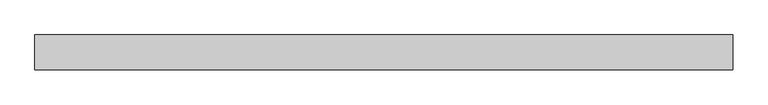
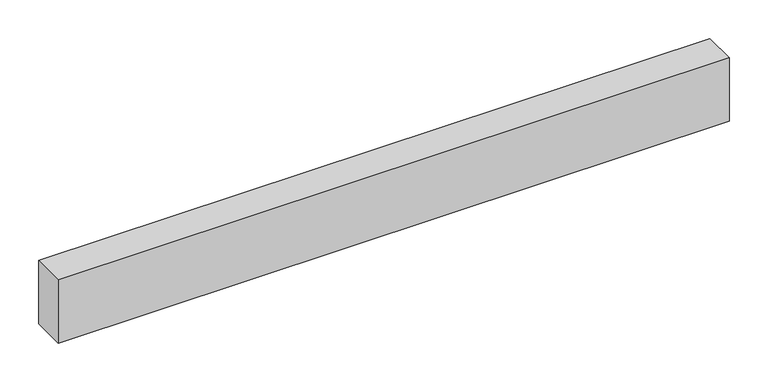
"""IFC4 building model written with IfcOpenShell, lengths in millimetres: proxy geometry, Building-Materials_Other_Daliform_Simple-Family_Accessory_PANEL_for ATLANTIS : PANEL_ATLANTIS_diam110_5x100x10."""

import ifcopenshell
import ifcopenshell.guid

model = None  # the IFC model being written
_history = None  # IfcOwnerHistory: only IFC2X3 demands one
_inside = {}  # id of a spatial element -> (the spatial element, [elements in it])
_under = {}  # id of a project, library or spatial element -> (it, [spatial elements below it])
_declared = {}  # id of a project -> (the project, [libraries it declares])
_typed = {}  # id of a type object -> (the type object, [elements of that type])
_made_of = {}  # id of a material, layer set ... -> (it, [elements and type objects made of it])


def new_model(schema):
    """Start an empty IFC model of exactly this schema.

    Asked for "IFC4X3", IfcOpenShell would pick the latest addendum, in which some entities
    have other attributes; the version numbers below select the first issue.
    IFC2X3 requires an IfcOwnerHistory on every rooted entity: one is made here for all.
    """
    global model, _history
    if schema == "IFC4X3":
        model = ifcopenshell.file(schema_version=(4, 3, 0, 0))
    else:
        model = ifcopenshell.file(schema=schema)
    _inside.clear()
    _under.clear()
    _declared.clear()
    _typed.clear()
    _made_of.clear()
    _history = None
    if model.schema == "IFC2X3":
        org = make("IfcOrganization", Name="unknown")
        user = make(
            "IfcPersonAndOrganization",
            ThePerson=make("IfcPerson", FamilyName="unknown"),
            TheOrganization=org,
        )
        app = make(
            "IfcApplication",
            ApplicationDeveloper=org,
            Version="unknown",
            ApplicationFullName="unknown",
            ApplicationIdentifier="unknown",
        )
        _history = make(
            "IfcOwnerHistory",
            OwningUser=user,
            OwningApplication=app,
            ChangeAction="ADDED",
            CreationDate=0,
        )
    return model


def make(cls, **values):
    """One entity of the class cls with the attributes given. An attribute that is None is left unset."""
    return model.create_entity(
        cls, **{name: value for name, value in values.items() if value is not None}
    )


def rooted(cls, **values):
    """An entity with a GlobalId (a new one), such as an element, a storey or a relation."""
    return make(cls, GlobalId=ifcopenshell.guid.new(), OwnerHistory=_history, **values)


def si_unit(unit_type, name, prefix=None):
    """IfcSIUnit, for example si_unit("LENGTHUNIT", "METRE", prefix="MILLI")."""
    return make("IfcSIUnit", UnitType=unit_type, Prefix=prefix, Name=name)


def assignment(units):
    """IfcUnitAssignment: the units of a project."""
    return None if units is None else make("IfcUnitAssignment", Units=units)


def point(xyz):
    """IfcCartesianPoint."""
    return None if xyz is None else make("IfcCartesianPoint", Coordinates=xyz)


def direction(xyz):
    """IfcDirection."""
    return None if xyz is None else make("IfcDirection", DirectionRatios=xyz)


def frame(location, z_axis=None, x_axis=None):
    """IfcAxis2Placement3D, a coordinate frame: its origin and axes. An axis left out is left unset."""
    return make(
        "IfcAxis2Placement3D",
        Location=point(location),
        Axis=direction(z_axis),
        RefDirection=direction(x_axis),
    )


def origin():
    """The frame at (0, 0, 0) with its axes left unset."""
    return frame((0.0, 0.0, 0.0))


def origin_with_axes():
    """The frame at (0, 0, 0) with the z axis (0, 0, 1) and the x axis (1, 0, 0) written out."""
    return frame((0.0, 0.0, 0.0), z_axis=(0.0, 0.0, 1.0), x_axis=(1.0, 0.0, 0.0))


def place(relative_to, where):
    """IfcLocalPlacement: puts the frame where relative to a parent placement (None: the world)."""
    return make(
        "IfcLocalPlacement", PlacementRelTo=relative_to, RelativePlacement=where
    )


def context(
    kind, dimensions, precision=None, world=None, true_north=None, identifier=None
):
    """IfcGeometricRepresentationContext, for example the 3D "Model" context."""
    return make(
        "IfcGeometricRepresentationContext",
        ContextIdentifier=identifier,
        ContextType=kind,
        CoordinateSpaceDimension=dimensions,
        Precision=precision,
        WorldCoordinateSystem=world,
        TrueNorth=true_north,
    )


def project(units=None, contexts=None):
    """IfcProject with its units and contexts."""
    return rooted(
        "IfcProject",
        Name="project",
        RepresentationContexts=contexts,
        UnitsInContext=assignment(units),
    )


def spatial(cls, under=None, at=None, **own):
    """A site, building, storey or space (cls), placed at a placement, below another one or the project."""
    s = rooted(cls, ObjectPlacement=at, **own)
    if under is not None:
        _under.setdefault(under.id(), (under, []))[1].append(s)
    return s


def polyline(points):
    """IfcPolyline through the points."""
    return make("IfcPolyline", Points=[point(p) for p in points])


def outline(outer, holes=None, kind="AREA"):
    """IfcArbitraryClosedProfileDef: a profile drawn as a closed curve; with holes, ...WithVoids."""
    if holes is None:
        return make("IfcArbitraryClosedProfileDef", ProfileType=kind, OuterCurve=outer)
    return make(
        "IfcArbitraryProfileDefWithVoids",
        ProfileType=kind,
        OuterCurve=outer,
        InnerCurves=holes,
    )


def extrude(swept, where, along, depth):
    """IfcExtrudedAreaSolid: the profile swept, set in the frame where, extruded along a direction by depth."""
    return make(
        "IfcExtrudedAreaSolid",
        SweptArea=swept,
        Position=where,
        ExtrudedDirection=direction(along),
        Depth=depth,
    )


def shape(context_of_items, identifier, shape_type, items):
    """IfcShapeRepresentation: the items that make up one representation, for example the "Body"."""
    return make(
        "IfcShapeRepresentation",
        ContextOfItems=context_of_items,
        RepresentationIdentifier=identifier,
        RepresentationType=shape_type,
        Items=items,
    )


def source(mapping_origin, context_of_items, identifier, shape_type, items):
    """IfcRepresentationMap: a shape defined once, which mapped items show again and again."""
    return make(
        "IfcRepresentationMap",
        MappingOrigin=mapping_origin,
        MappedRepresentation=shape(context_of_items, identifier, shape_type, items),
    )


def transform(
    local_origin,
    x_axis=None,
    y_axis=None,
    z_axis=None,
    scale=None,
    scale2=None,
    scale3=None,
    uniform=True,
):
    """IfcCartesianTransformationOperator3D, or its non-uniform kind. x_axis, y_axis, z_axis: its Axis1, 2, 3."""
    if uniform:
        return make(
            "IfcCartesianTransformationOperator3D",
            Axis1=direction(x_axis),
            Axis2=direction(y_axis),
            LocalOrigin=point(local_origin),
            Scale=scale,
            Axis3=direction(z_axis),
        )
    return make(
        "IfcCartesianTransformationOperator3DnonUniform",
        Axis1=direction(x_axis),
        Axis2=direction(y_axis),
        LocalOrigin=point(local_origin),
        Scale=scale,
        Axis3=direction(z_axis),
        Scale2=scale2,
        Scale3=scale3,
    )


def mapped(mapping_source, mapping_target):
    """IfcMappedItem: shows the shape of a source again, moved by a transform."""
    return make(
        "IfcMappedItem", MappingSource=mapping_source, MappingTarget=mapping_target
    )


def made_of(thing, what):
    """Note that an element or type object is made of a material, layer set ...; save() writes the relation."""
    if what is not None:
        _made_of.setdefault(what.id(), (what, []))[1].append(thing)
    return thing


def element(
    cls,
    number,
    at=None,
    inside=None,
    cuts=None,
    type_object=None,
    material=None,
    context=None,
    identifier="Body",
    shape_type=None,
    held_by="IfcProductDefinitionShape",
    body=None,
    shapes=None,
    **own,
):
    """One element of the class cls, such as IfcWall. Its Tag is "e" and its number.

    at: its placement. inside: the storey or other place that contains it. cuts: it is an
    opening in that element (IfcRelVoidsElement). A single representation is given by context,
    identifier, shape_type and body (its items); several are given by shapes. held_by: the class
    of the entity that holds the representations. save() writes the other relations.
    """
    e = rooted(cls, Tag="e%d" % number, ObjectPlacement=at, **own)
    if body is not None:
        shapes = [shape(context, identifier, shape_type, body)]
    if shapes is not None:
        e.Representation = make(held_by, Representations=shapes)
    if inside is not None:
        _inside.setdefault(inside.id(), (inside, []))[1].append(e)
    if cuts is not None:
        rooted(
            "IfcRelVoidsElement", RelatingBuildingElement=cuts, RelatedOpeningElement=e
        )
    if type_object is not None:
        _typed.setdefault(type_object.id(), (type_object, []))[1].append(e)
    return made_of(e, material)


def aggregate(whole, parts):
    """IfcRelAggregates: a whole, such as a stair, and the parts it consists of."""
    return rooted("IfcRelAggregates", RelatingObject=whole, RelatedObjects=parts)


def save(model, path):
    """Write the relations noted so far, then the file.

    IfcRelAggregates (storeys below a building ...), IfcRelContainedInSpatialStructure (elements
    in a storey), IfcRelDefinesByType, IfcRelAssociatesMaterial and IfcRelDeclares: one each for
    every whole, place, type object, material and project.
    """
    for whole, parts in _under.values():
        aggregate(whole, parts)
    for where, things in _inside.values():
        rooted(
            "IfcRelContainedInSpatialStructure",
            RelatedElements=things,
            RelatingStructure=where,
        )
    for kind, things in _typed.values():
        rooted("IfcRelDefinesByType", RelatedObjects=things, RelatingType=kind)
    for what, things in _made_of.values():
        rooted("IfcRelAssociatesMaterial", RelatedObjects=things, RelatingMaterial=what)
    for by, libraries in _declared.values():
        rooted("IfcRelDeclares", RelatingContext=by, RelatedDefinitions=libraries)
    model.write(path)


def generic_models_70562a10(model_context):
    return source(origin(), model_context, "Body", "SweptSolid", [
        extrude(outline(polyline([(0.0, -50.0), (0.0, 0.0), (1000.0, 0.0), (1000.0, -50.0), (0.0, -50.0)])), origin_with_axes(), (0.0, 0.0, 1.0), 100.0),
    ])


if __name__ == "__main__":
    model = new_model("IFC4")
    model_context = context("Model", 3, world=origin())
    ifc_project = project(units=[si_unit("LENGTHUNIT", "METRE", prefix="MILLI")], contexts=[model_context])
    site = spatial("IfcSite", under=ifc_project)
    building = spatial("IfcBuilding", under=site)
    placement = place(None, origin())
    generic_models_shape = generic_models_70562a10(model_context)
    element("IfcBuildingElementProxy", 1, Name="Building-Materials_Other_Daliform_Simple-Family_Accessory_PANEL_for ATLANTIS : PANEL_ATLANTIS_diam110_5x100x10", ObjectType="Building-Materials_Other_Daliform_Simple-Family_Accessory_PANEL_for ATLANTIS : PANEL_ATLANTIS_diam110_5x100x10", at=placement, inside=building, context=model_context, shape_type="MappedRepresentation", body=[
        mapped(generic_models_shape, transform((0.0, 0.0, 0.0), x_axis=(1.0, 0.0, 0.0), y_axis=(0.0, 1.0, 0.0), z_axis=(0.0, 0.0, 1.0))),
    ])
    save(model, "model.ifc")
